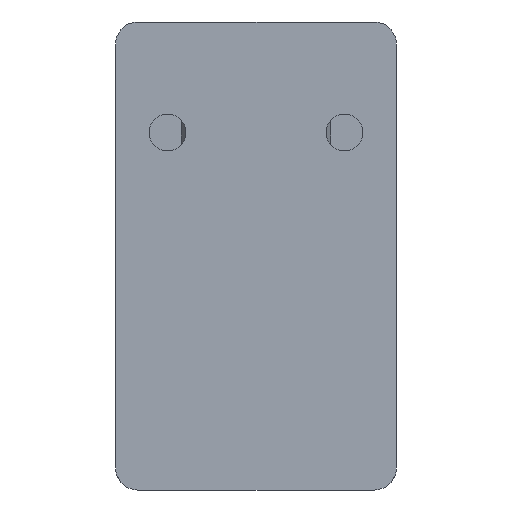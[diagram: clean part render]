
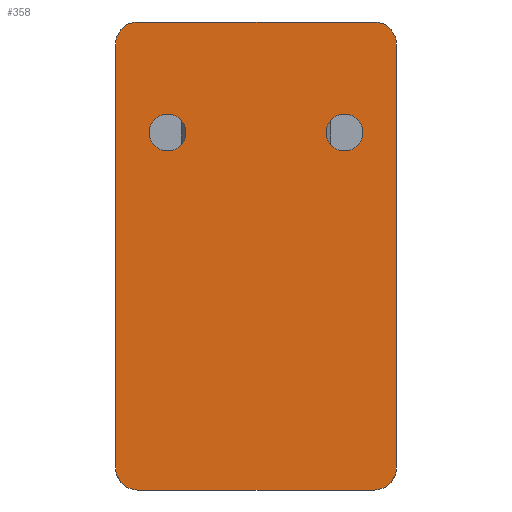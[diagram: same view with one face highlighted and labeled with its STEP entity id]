
A CAD part, left-side view. The second image highlights one B-rep face of the part: STEP entity #358.
In plain terms, the highlighted planar face has unit normal (-1, 0, 0).
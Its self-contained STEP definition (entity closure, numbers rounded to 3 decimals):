
#54 = CIRCLE ( 'NONE', #1594, 3. ) ;
#61 = CARTESIAN_POINT ( 'NONE',  ( -36., 19.05, 31.75 ) ) ;
#84 = DIRECTION ( 'NONE',  ( 0., 0., -1. ) ) ;
#89 = AXIS2_PLACEMENT_3D ( 'NONE', #3073, #2904, #84 ) ;
#108 = VECTOR ( 'NONE', #2851, 1000. ) ;
#139 = VERTEX_POINT ( 'NONE', #1721 ) ;
#198 = CARTESIAN_POINT ( 'NONE',  ( -36., -19.05, 31.75 ) ) ;
#261 = AXIS2_PLACEMENT_3D ( 'NONE', #2042, #292, #508 ) ;
#276 = VERTEX_POINT ( 'NONE', #2727 ) ;
#279 = EDGE_CURVE ( 'NONE', #1681, #682, #709, .T. ) ;
#292 = DIRECTION ( 'NONE',  ( -1., 0., 0. ) ) ;
#320 = AXIS2_PLACEMENT_3D ( 'NONE', #2592, #2054, #504 ) ;
#350 = ORIENTED_EDGE ( 'NONE', *, *, #1970, .T. ) ;
#355 = ORIENTED_EDGE ( 'NONE', *, *, #574, .T. ) ;
#358 = ADVANCED_FACE ( 'NONE', ( #3110, #2594, #1045 ), #761, .F. ) ;
#407 = ORIENTED_EDGE ( 'NONE', *, *, #667, .F. ) ;
#411 = VERTEX_POINT ( 'NONE', #1764 ) ;
#499 = VERTEX_POINT ( 'NONE', #1745 ) ;
#504 = DIRECTION ( 'NONE',  ( 0., 0., -1. ) ) ;
#508 = DIRECTION ( 'NONE',  ( 0., 0., 1. ) ) ;
#512 = CARTESIAN_POINT ( 'NONE',  ( -36., 19.05, 31.75 ) ) ;
#516 = CARTESIAN_POINT ( 'NONE',  ( -36., 16.05, 31.75 ) ) ;
#535 = VECTOR ( 'NONE', #2349, 1000. ) ;
#549 = EDGE_LOOP ( 'NONE', ( #1851, #407 ) ) ;
#574 = EDGE_CURVE ( 'NONE', #3124, #682, #1258, .T. ) ;
#620 = DIRECTION ( 'NONE',  ( 0., 0., 1. ) ) ;
#667 = EDGE_CURVE ( 'NONE', #276, #1468, #3275, .T. ) ;
#672 = AXIS2_PLACEMENT_3D ( 'NONE', #1529, #1137, #3167 ) ;
#682 = VERTEX_POINT ( 'NONE', #1474 ) ;
#709 = LINE ( 'NONE', #1457, #917 ) ;
#752 = CARTESIAN_POINT ( 'NONE',  ( -36., -16.05, -31.75 ) ) ;
#761 = PLANE ( 'NONE',  #2460 ) ;
#802 = DIRECTION ( 'NONE',  ( -1., 0., 0. ) ) ;
#906 = DIRECTION ( 'NONE',  ( -1., 0., 0. ) ) ;
#917 = VECTOR ( 'NONE', #1207, 1000. ) ;
#935 = CARTESIAN_POINT ( 'NONE',  ( -36., -19.05, 28.75 ) ) ;
#948 = ORIENTED_EDGE ( 'NONE', *, *, #1107, .T. ) ;
#966 = LINE ( 'NONE', #198, #2533 ) ;
#985 = CARTESIAN_POINT ( 'NONE',  ( -36., -19.05, -28.75 ) ) ;
#986 = DIRECTION ( 'NONE',  ( 0., 0., -1. ) ) ;
#1045 = FACE_OUTER_BOUND ( 'NONE', #1790, .T. ) ;
#1055 = AXIS2_PLACEMENT_3D ( 'NONE', #1353, #802, #620 ) ;
#1107 = EDGE_CURVE ( 'NONE', #3015, #139, #54, .T. ) ;
#1137 = DIRECTION ( 'NONE',  ( -1., 0., 0. ) ) ;
#1205 = VERTEX_POINT ( 'NONE', #985 ) ;
#1207 = DIRECTION ( 'NONE',  ( 0., 0., 1. ) ) ;
#1227 = CIRCLE ( 'NONE', #2506, 3. ) ;
#1258 = CIRCLE ( 'NONE', #89, 3. ) ;
#1265 = ORIENTED_EDGE ( 'NONE', *, *, #2980, .T. ) ;
#1299 = EDGE_LOOP ( 'NONE', ( #2138, #2574 ) ) ;
#1353 = CARTESIAN_POINT ( 'NONE',  ( -36., 12., 16.75 ) ) ;
#1438 = EDGE_CURVE ( 'NONE', #3118, #1205, #1860, .T. ) ;
#1457 = CARTESIAN_POINT ( 'NONE',  ( -36., 19.05, 31.75 ) ) ;
#1468 = VERTEX_POINT ( 'NONE', #3076 ) ;
#1474 = CARTESIAN_POINT ( 'NONE',  ( -36., 19.05, 28.75 ) ) ;
#1529 = CARTESIAN_POINT ( 'NONE',  ( -36., -12., 16.75 ) ) ;
#1594 = AXIS2_PLACEMENT_3D ( 'NONE', #3062, #3269, #986 ) ;
#1665 = DIRECTION ( 'NONE',  ( 0., 0., 1. ) ) ;
#1681 = VERTEX_POINT ( 'NONE', #2497 ) ;
#1683 = DIRECTION ( 'NONE',  ( 0., 0., 1. ) ) ;
#1711 = ORIENTED_EDGE ( 'NONE', *, *, #2408, .F. ) ;
#1721 = CARTESIAN_POINT ( 'NONE',  ( -36., -16.05, 31.75 ) ) ;
#1745 = CARTESIAN_POINT ( 'NONE',  ( -36., 12., 19.25 ) ) ;
#1764 = CARTESIAN_POINT ( 'NONE',  ( -36., 16.05, -31.75 ) ) ;
#1790 = EDGE_LOOP ( 'NONE', ( #2466, #350, #1826, #2945, #1265, #948, #1711, #355 ) ) ;
#1826 = ORIENTED_EDGE ( 'NONE', *, *, #2295, .T. ) ;
#1845 = DIRECTION ( 'NONE',  ( -1., 0., 0. ) ) ;
#1851 = ORIENTED_EDGE ( 'NONE', *, *, #3054, .F. ) ;
#1860 = CIRCLE ( 'NONE', #320, 3. ) ;
#1970 = EDGE_CURVE ( 'NONE', #1681, #411, #1227, .T. ) ;
#2042 = CARTESIAN_POINT ( 'NONE',  ( -36., 12., 16.75 ) ) ;
#2054 = DIRECTION ( 'NONE',  ( -1., 0., 0. ) ) ;
#2104 = AXIS2_PLACEMENT_3D ( 'NONE', #2217, #906, #1665 ) ;
#2138 = ORIENTED_EDGE ( 'NONE', *, *, #3235, .F. ) ;
#2154 = CIRCLE ( 'NONE', #2104, 2.5 ) ;
#2174 = CIRCLE ( 'NONE', #261, 2.5 ) ;
#2217 = CARTESIAN_POINT ( 'NONE',  ( -36., -12., 16.75 ) ) ;
#2295 = EDGE_CURVE ( 'NONE', #411, #3118, #2330, .T. ) ;
#2330 = LINE ( 'NONE', #3115, #108 ) ;
#2335 = CARTESIAN_POINT ( 'NONE',  ( -36., 16.05, -28.75 ) ) ;
#2349 = DIRECTION ( 'NONE',  ( 0., -1., 0. ) ) ;
#2408 = EDGE_CURVE ( 'NONE', #3124, #139, #2799, .T. ) ;
#2460 = AXIS2_PLACEMENT_3D ( 'NONE', #61, #2794, #3078 ) ;
#2466 = ORIENTED_EDGE ( 'NONE', *, *, #279, .F. ) ;
#2470 = CARTESIAN_POINT ( 'NONE',  ( -36., 12., 14.25 ) ) ;
#2497 = CARTESIAN_POINT ( 'NONE',  ( -36., 19.05, -28.75 ) ) ;
#2506 = AXIS2_PLACEMENT_3D ( 'NONE', #2335, #1845, #2588 ) ;
#2533 = VECTOR ( 'NONE', #1683, 1000. ) ;
#2574 = ORIENTED_EDGE ( 'NONE', *, *, #2731, .F. ) ;
#2588 = DIRECTION ( 'NONE',  ( 0., 0., -1. ) ) ;
#2592 = CARTESIAN_POINT ( 'NONE',  ( -36., -16.05, -28.75 ) ) ;
#2594 = FACE_BOUND ( 'NONE', #549, .T. ) ;
#2727 = CARTESIAN_POINT ( 'NONE',  ( -36., -12., 14.25 ) ) ;
#2731 = EDGE_CURVE ( 'NONE', #2977, #499, #2174, .T. ) ;
#2794 = DIRECTION ( 'NONE',  ( 1., 0., 0. ) ) ;
#2799 = LINE ( 'NONE', #512, #535 ) ;
#2851 = DIRECTION ( 'NONE',  ( 0., -1., 0. ) ) ;
#2904 = DIRECTION ( 'NONE',  ( -1., 0., 0. ) ) ;
#2945 = ORIENTED_EDGE ( 'NONE', *, *, #1438, .T. ) ;
#2977 = VERTEX_POINT ( 'NONE', #2470 ) ;
#2980 = EDGE_CURVE ( 'NONE', #1205, #3015, #966, .T. ) ;
#3015 = VERTEX_POINT ( 'NONE', #935 ) ;
#3054 = EDGE_CURVE ( 'NONE', #1468, #276, #2154, .T. ) ;
#3062 = CARTESIAN_POINT ( 'NONE',  ( -36., -16.05, 28.75 ) ) ;
#3073 = CARTESIAN_POINT ( 'NONE',  ( -36., 16.05, 28.75 ) ) ;
#3076 = CARTESIAN_POINT ( 'NONE',  ( -36., -12., 19.25 ) ) ;
#3078 = DIRECTION ( 'NONE',  ( 0., 0., -1. ) ) ;
#3110 = FACE_BOUND ( 'NONE', #1299, .T. ) ;
#3115 = CARTESIAN_POINT ( 'NONE',  ( -36., 19.05, -31.75 ) ) ;
#3118 = VERTEX_POINT ( 'NONE', #752 ) ;
#3124 = VERTEX_POINT ( 'NONE', #516 ) ;
#3167 = DIRECTION ( 'NONE',  ( 0., 0., 1. ) ) ;
#3230 = CIRCLE ( 'NONE', #1055, 2.5 ) ;
#3235 = EDGE_CURVE ( 'NONE', #499, #2977, #3230, .T. ) ;
#3269 = DIRECTION ( 'NONE',  ( -1., 0., 0. ) ) ;
#3275 = CIRCLE ( 'NONE', #672, 2.5 ) ;
